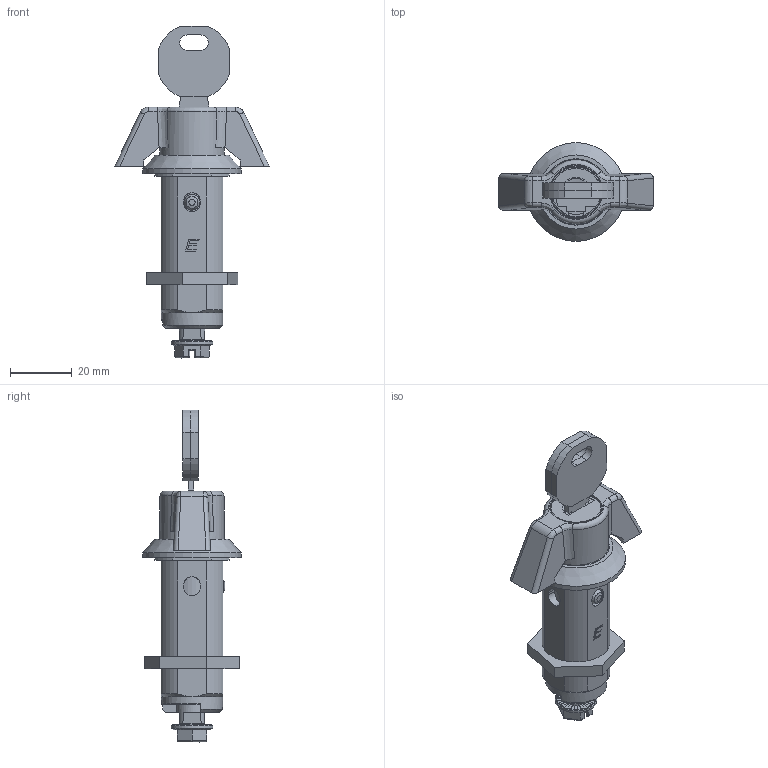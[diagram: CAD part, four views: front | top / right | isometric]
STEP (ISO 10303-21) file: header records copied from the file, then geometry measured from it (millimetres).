
FILE_DESCRIPTION((''),'2;1');
FILE_NAME('C:\Documents and Settings\Administrator\My Documents\Andys Backup Data\ANDY''S INVENTOR\INVENTOR LIBRARIES\MINITEC INVENTOR LIBRARIES\HANDLES LOCKS STOPS\A PACKED FILES\STEP FILES\21.1015 T-HANDLE 32.stp','2010-06-25T13:40:54',('Administrator'),(''),'Autodesk Inventor 2009','Autodesk Inventor 2009','');
FILE_SCHEMA(('AUTOMOTIVE_DESIGN { 1 0 10303 214 1 1 1 1 }'));
Length unit declared in the file: millimetre
Products named in the file (19): 21.1015 T-HANDLE 32; 1000-B01_ASM; 1000-218; 1044-03-01; 1005-12; 1108-U9_ASM; 1108-09-01; 1108-U35_ASM; 1108-14-333_PRT; 1108-15-01_PRT; 1108-27; 1108-24; 1108-25; 1000-166; DIN3771_16X2_5; 1000-169; 1000-23; 1000-02; 1000-277-07
Assembly tree (23 placements, depth 5):
  21.1015 T-HANDLE 32
    1000-B01_ASM
      1000-218
      1044-03-01
      1005-12
      1108-U9_ASM
        1108-09-01
        1108-U35_ASM
          1108-14-333_PRT
          1108-15-01_PRT  x2
        1108-27
        1108-24
        1108-25  x5
    1000-166
    DIN3771_16X2_5
    1000-169
    1000-23
    1000-02
    1000-277-07
Bounding box: 50 x 32 x 107.55 mm (x, y, z)
Volume: 33165.4 mm3; surface area: 26810.2 mm2
Topology: 20 solids, 20 shells, 809 faces, 2157 edges, 1400 vertices
Faces by surface type: plane 517, cylinder 209, bspline 38, torus 24, cone 17, sphere 4
Full cylindrical faces by diameter (mm): 1.8 x1, 2.1 x1, 3 x2, 4.95 x1, 5 x2, 5.1 x2, 5.5 x1, 5.6 x1, 6.2 x1, 8.4 x1, 8.65 x1, 9.3 x1, 9.9 x1, 10 x1, 11.8 x1, 12 x3, 12.05 x1, 12.8 x1, 13.5 x1, 14.8 x1, 15 x1, 16 x1, 16.1 x1, 16.7 x1, 16.8 x1, 17.2 x1, 19.8 x1, 20.8 x1, 21.5 x1, 22 x1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
Entity records: 29279 total; most frequent: CARTESIAN_POINT 9979, ORIENTED_EDGE 3808, DIRECTION 3730, EDGE_CURVE 1904, AXIS2_PLACEMENT_3D 1262, VERTEX_POINT 1259, VECTOR 1206, LINE 1206
